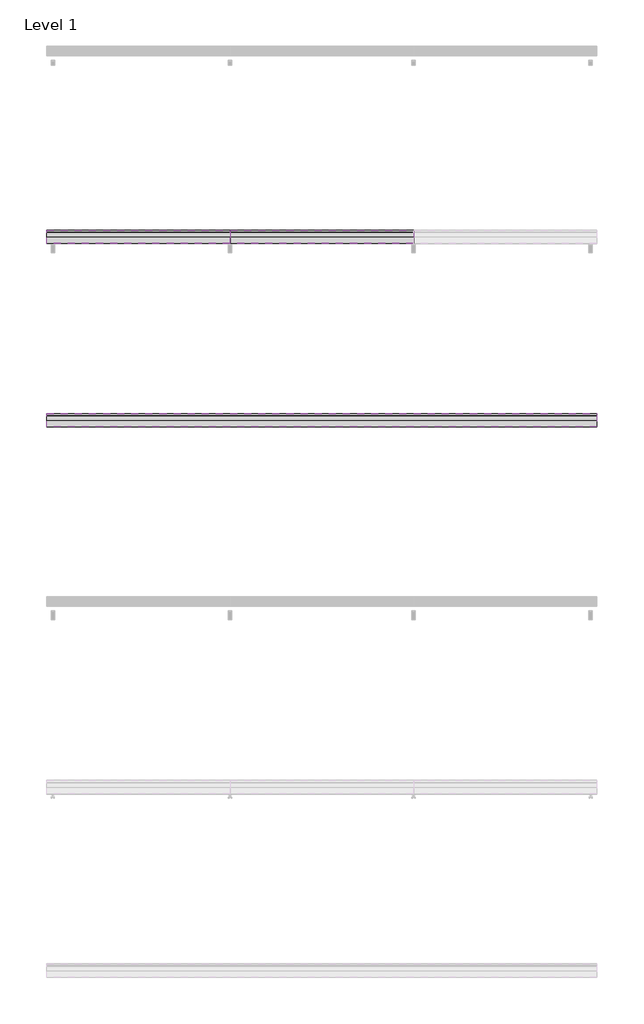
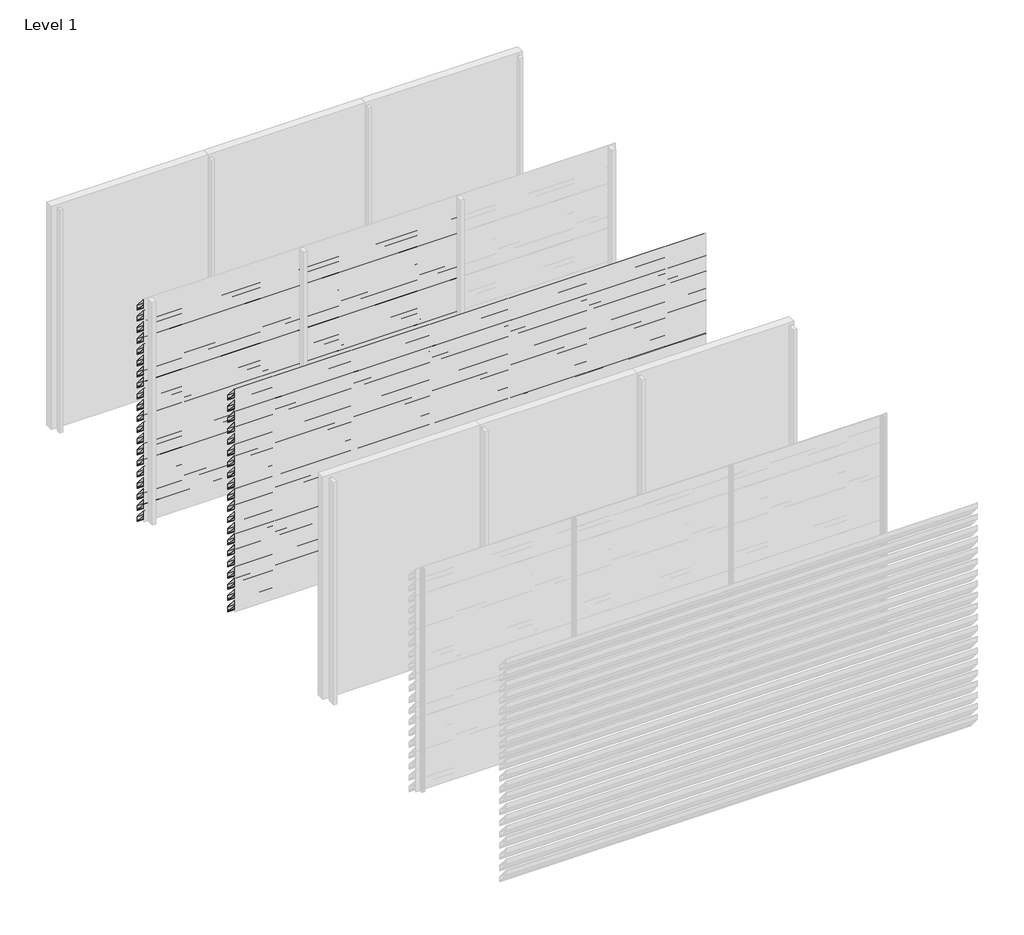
# One storey, part 7 of 16: 56 proxies.
"""IFC4 building model written with IfcOpenShell, lengths in millimetres."""

from ifc_helpers import new_model, si_unit, frame, origin, place, context, project, spatial, polyline, outline, extrude, element, save

model = new_model("IFC4")

# Units and contexts
model_context = context("Model", 3, world=origin())
ifc_project = project(units=[si_unit("LENGTHUNIT", "METRE", prefix="MILLI")], contexts=[model_context])

# Site, building, storey
site = spatial("IfcSite", under=ifc_project)
building = spatial("IfcBuilding", under=site)
storey = spatial("IfcBuildingStorey", under=building, Name="Level 1", Elevation=0.0)

# Proxies
placement = place(None, origin())
element("IfcBuildingElementProxy", 1, Name="Wall Sweeps", at=placement, inside=storey, context=model_context, shape_type="SweptSolid", body=[
    extrude(outline(polyline([(-35851.0, 2830.0), (-35851.0, 2761.0), (-35853.5, 2762.1657691), (-35853.5, 2775.7059843), (-35870.2498671, 2795.6676986), (-35880.9351065, 2795.6676986), (-35998.0, 2935.1802059), (-35998.0, 3000.0), (-35993.6469373, 3000.0), (-35851.0, 2830.0)]), holes=[polyline([(-35996.1, 2998.1), (-35996.1, 2935.8717493), (-35880.049122, 2797.5676986), (-35869.3638825, 2797.5676986), (-35852.9, 2777.9468074), (-35852.9, 2829.3084566), (-35994.5329219, 2998.1), (-35996.1, 2998.1)])]), frame((0.0, 0.0, 0.0), z_axis=(1.0, 0.0, 0.0), x_axis=(0.0, 1.0, 0.0)), (0.0, 0.0, 1.0), 2000.0),
])
element("IfcBuildingElementProxy", 2, Name="Wall Sweeps", at=placement, inside=storey, context=model_context, shape_type="SweptSolid", body=[
    extrude(outline(polyline([(-35851.0, 2680.0), (-35851.0, 2611.0), (-35853.5, 2612.1657691), (-35853.5, 2625.7059843), (-35870.2498671, 2645.6676986), (-35880.9351065, 2645.6676986), (-35998.0, 2785.1802059), (-35998.0, 2850.0), (-35993.6469373, 2850.0), (-35851.0, 2680.0)]), holes=[polyline([(-35996.1, 2848.1), (-35996.1, 2785.8717493), (-35880.049122, 2647.5676986), (-35869.3638825, 2647.5676986), (-35852.9, 2627.9468074), (-35852.9, 2679.3084566), (-35994.5329219, 2848.1), (-35996.1, 2848.1)])]), frame((0.0, 0.0, 0.0), z_axis=(1.0, 0.0, 0.0), x_axis=(0.0, 1.0, 0.0)), (0.0, 0.0, 1.0), 2000.0),
])
element("IfcBuildingElementProxy", 3, Name="Wall Sweeps", at=placement, inside=storey, context=model_context, shape_type="SweptSolid", body=[
    extrude(outline(polyline([(-35851.0, 2530.0), (-35851.0, 2461.0), (-35853.5, 2462.1657691), (-35853.5, 2475.7059843), (-35870.2498671, 2495.6676986), (-35880.9351065, 2495.6676986), (-35998.0, 2635.1802059), (-35998.0, 2700.0), (-35993.6469373, 2700.0), (-35851.0, 2530.0)]), holes=[polyline([(-35996.1, 2698.1), (-35996.1, 2635.8717493), (-35880.049122, 2497.5676986), (-35869.3638825, 2497.5676986), (-35852.9, 2477.9468074), (-35852.9, 2529.3084566), (-35994.5329219, 2698.1), (-35996.1, 2698.1)])]), frame((0.0, 0.0, 0.0), z_axis=(1.0, 0.0, 0.0), x_axis=(0.0, 1.0, 0.0)), (0.0, 0.0, 1.0), 2000.0),
])
element("IfcBuildingElementProxy", 4, Name="Wall Sweeps", at=placement, inside=storey, context=model_context, shape_type="SweptSolid", body=[
    extrude(outline(polyline([(-35851.0, 2380.0), (-35851.0, 2311.0), (-35853.5, 2312.1657691), (-35853.5, 2325.7059843), (-35870.2498671, 2345.6676986), (-35880.9351065, 2345.6676986), (-35998.0, 2485.1802059), (-35998.0, 2550.0), (-35993.6469373, 2550.0), (-35851.0, 2380.0)]), holes=[polyline([(-35996.1, 2548.1), (-35996.1, 2485.8717493), (-35880.049122, 2347.5676986), (-35869.3638825, 2347.5676986), (-35852.9, 2327.9468074), (-35852.9, 2379.3084566), (-35994.5329219, 2548.1), (-35996.1, 2548.1)])]), frame((0.0, 0.0, 0.0), z_axis=(1.0, 0.0, 0.0), x_axis=(0.0, 1.0, 0.0)), (0.0, 0.0, 1.0), 2000.0),
])
element("IfcBuildingElementProxy", 5, Name="Wall Sweeps", at=placement, inside=storey, context=model_context, shape_type="SweptSolid", body=[
    extrude(outline(polyline([(-35851.0, 2230.0), (-35851.0, 2161.0), (-35853.5, 2162.1657691), (-35853.5, 2175.7059843), (-35870.2498671, 2195.6676986), (-35880.9351065, 2195.6676986), (-35998.0, 2335.1802059), (-35998.0, 2400.0), (-35993.6469373, 2400.0), (-35851.0, 2230.0)]), holes=[polyline([(-35996.1, 2398.1), (-35996.1, 2335.8717493), (-35880.049122, 2197.5676986), (-35869.3638825, 2197.5676986), (-35852.9, 2177.9468074), (-35852.9, 2229.3084566), (-35994.5329219, 2398.1), (-35996.1, 2398.1)])]), frame((0.0, 0.0, 0.0), z_axis=(1.0, 0.0, 0.0), x_axis=(0.0, 1.0, 0.0)), (0.0, 0.0, 1.0), 2000.0),
])
element("IfcBuildingElementProxy", 6, Name="Wall Sweeps", at=placement, inside=storey, context=model_context, shape_type="SweptSolid", body=[
    extrude(outline(polyline([(-35851.0, 2080.0), (-35851.0, 2011.0), (-35853.5, 2012.1657691), (-35853.5, 2025.7059843), (-35870.2498671, 2045.6676986), (-35880.9351065, 2045.6676986), (-35998.0, 2185.1802059), (-35998.0, 2250.0), (-35993.6469373, 2250.0), (-35851.0, 2080.0)]), holes=[polyline([(-35996.1, 2248.1), (-35996.1, 2185.8717493), (-35880.049122, 2047.5676986), (-35869.3638825, 2047.5676986), (-35852.9, 2027.9468074), (-35852.9, 2079.3084566), (-35994.5329219, 2248.1), (-35996.1, 2248.1)])]), frame((0.0, 0.0, 0.0), z_axis=(1.0, 0.0, 0.0), x_axis=(0.0, 1.0, 0.0)), (0.0, 0.0, 1.0), 2000.0),
])
element("IfcBuildingElementProxy", 7, Name="Wall Sweeps", at=placement, inside=storey, context=model_context, shape_type="SweptSolid", body=[
    extrude(outline(polyline([(-35851.0, 1930.0), (-35851.0, 1861.0), (-35853.5, 1862.1657691), (-35853.5, 1875.7059843), (-35870.2498671, 1895.6676986), (-35880.9351065, 1895.6676986), (-35998.0, 2035.1802059), (-35998.0, 2100.0), (-35993.6469373, 2100.0), (-35851.0, 1930.0)]), holes=[polyline([(-35996.1, 2098.1), (-35996.1, 2035.8717493), (-35880.049122, 1897.5676986), (-35869.3638825, 1897.5676986), (-35852.9, 1877.9468074), (-35852.9, 1929.3084566), (-35994.5329219, 2098.1), (-35996.1, 2098.1)])]), frame((0.0, 0.0, 0.0), z_axis=(1.0, 0.0, 0.0), x_axis=(0.0, 1.0, 0.0)), (0.0, 0.0, 1.0), 2000.0),
])
element("IfcBuildingElementProxy", 8, Name="Wall Sweeps", at=placement, inside=storey, context=model_context, shape_type="SweptSolid", body=[
    extrude(outline(polyline([(-35851.0, 1780.0), (-35851.0, 1711.0), (-35853.5, 1712.1657691), (-35853.5, 1725.7059843), (-35870.2498671, 1745.6676986), (-35880.9351065, 1745.6676986), (-35998.0, 1885.1802059), (-35998.0, 1950.0), (-35993.6469373, 1950.0), (-35851.0, 1780.0)]), holes=[polyline([(-35996.1, 1948.1), (-35996.1, 1885.8717493), (-35880.049122, 1747.5676986), (-35869.3638825, 1747.5676986), (-35852.9, 1727.9468074), (-35852.9, 1779.3084566), (-35994.5329219, 1948.1), (-35996.1, 1948.1)])]), frame((0.0, 0.0, 0.0), z_axis=(1.0, 0.0, 0.0), x_axis=(0.0, 1.0, 0.0)), (0.0, 0.0, 1.0), 2000.0),
])
element("IfcBuildingElementProxy", 9, Name="Wall Sweeps", at=placement, inside=storey, context=model_context, shape_type="SweptSolid", body=[
    extrude(outline(polyline([(-35851.0, 1630.0), (-35851.0, 1561.0), (-35853.5, 1562.1657691), (-35853.5, 1575.7059843), (-35870.2498671, 1595.6676986), (-35880.9351065, 1595.6676986), (-35998.0, 1735.1802059), (-35998.0, 1800.0), (-35993.6469373, 1800.0), (-35851.0, 1630.0)]), holes=[polyline([(-35996.1, 1798.1), (-35996.1, 1735.8717493), (-35880.049122, 1597.5676986), (-35869.3638825, 1597.5676986), (-35852.9, 1577.9468074), (-35852.9, 1629.3084566), (-35994.5329219, 1798.1), (-35996.1, 1798.1)])]), frame((0.0, 0.0, 0.0), z_axis=(1.0, 0.0, 0.0), x_axis=(0.0, 1.0, 0.0)), (0.0, 0.0, 1.0), 2000.0),
])
element("IfcBuildingElementProxy", 10, Name="Wall Sweeps", at=placement, inside=storey, context=model_context, shape_type="SweptSolid", body=[
    extrude(outline(polyline([(-35851.0, 1480.0), (-35851.0, 1411.0), (-35853.5, 1412.1657691), (-35853.5, 1425.7059843), (-35870.2498671, 1445.6676986), (-35880.9351065, 1445.6676986), (-35998.0, 1585.1802059), (-35998.0, 1650.0), (-35993.6469373, 1650.0), (-35851.0, 1480.0)]), holes=[polyline([(-35996.1, 1648.1), (-35996.1, 1585.8717493), (-35880.049122, 1447.5676986), (-35869.3638825, 1447.5676986), (-35852.9, 1427.9468074), (-35852.9, 1479.3084566), (-35994.5329219, 1648.1), (-35996.1, 1648.1)])]), frame((0.0, 0.0, 0.0), z_axis=(1.0, 0.0, 0.0), x_axis=(0.0, 1.0, 0.0)), (0.0, 0.0, 1.0), 2000.0),
])
element("IfcBuildingElementProxy", 11, Name="Wall Sweeps", at=placement, inside=storey, context=model_context, shape_type="SweptSolid", body=[
    extrude(outline(polyline([(-35851.0, 1330.0), (-35851.0, 1261.0), (-35853.5, 1262.1657691), (-35853.5, 1275.7059843), (-35870.2498671, 1295.6676986), (-35880.9351065, 1295.6676986), (-35998.0, 1435.1802059), (-35998.0, 1500.0), (-35993.6469373, 1500.0), (-35851.0, 1330.0)]), holes=[polyline([(-35996.1, 1498.1), (-35996.1, 1435.8717493), (-35880.049122, 1297.5676986), (-35869.3638825, 1297.5676986), (-35852.9, 1277.9468074), (-35852.9, 1329.3084566), (-35994.5329219, 1498.1), (-35996.1, 1498.1)])]), frame((0.0, 0.0, 0.0), z_axis=(1.0, 0.0, 0.0), x_axis=(0.0, 1.0, 0.0)), (0.0, 0.0, 1.0), 2000.0),
])
element("IfcBuildingElementProxy", 12, Name="Wall Sweeps", at=placement, inside=storey, context=model_context, shape_type="SweptSolid", body=[
    extrude(outline(polyline([(-35851.0, 1180.0), (-35851.0, 1111.0), (-35853.5, 1112.1657691), (-35853.5, 1125.7059843), (-35870.2498671, 1145.6676986), (-35880.9351065, 1145.6676986), (-35998.0, 1285.1802059), (-35998.0, 1350.0), (-35993.6469373, 1350.0), (-35851.0, 1180.0)]), holes=[polyline([(-35996.1, 1348.1), (-35996.1, 1285.8717493), (-35880.049122, 1147.5676986), (-35869.3638825, 1147.5676986), (-35852.9, 1127.9468074), (-35852.9, 1179.3084566), (-35994.5329219, 1348.1), (-35996.1, 1348.1)])]), frame((0.0, 0.0, 0.0), z_axis=(1.0, 0.0, 0.0), x_axis=(0.0, 1.0, 0.0)), (0.0, 0.0, 1.0), 2000.0),
])
element("IfcBuildingElementProxy", 13, Name="Wall Sweeps", at=placement, inside=storey, context=model_context, shape_type="SweptSolid", body=[
    extrude(outline(polyline([(-35851.0, 1030.0), (-35851.0, 961.0), (-35853.5, 962.1657691), (-35853.5, 975.7059843), (-35870.2498671, 995.6676986), (-35880.9351065, 995.6676986), (-35998.0, 1135.1802059), (-35998.0, 1200.0), (-35993.6469373, 1200.0), (-35851.0, 1030.0)]), holes=[polyline([(-35996.1, 1198.1), (-35996.1, 1135.8717493), (-35880.049122, 997.5676986), (-35869.3638825, 997.5676986), (-35852.9, 977.9468074), (-35852.9, 1029.3084566), (-35994.5329219, 1198.1), (-35996.1, 1198.1)])]), frame((0.0, 0.0, 0.0), z_axis=(1.0, 0.0, 0.0), x_axis=(0.0, 1.0, 0.0)), (0.0, 0.0, 1.0), 2000.0),
])
element("IfcBuildingElementProxy", 14, Name="Wall Sweeps", at=placement, inside=storey, context=model_context, shape_type="SweptSolid", body=[
    extrude(outline(polyline([(-35851.0, 880.0), (-35851.0, 811.0), (-35853.5, 812.1657691), (-35853.5, 825.7059843), (-35870.2498671, 845.6676986), (-35880.9351065, 845.6676986), (-35998.0, 985.1802059), (-35998.0, 1050.0), (-35993.6469373, 1050.0), (-35851.0, 880.0)]), holes=[polyline([(-35996.1, 1048.1), (-35996.1, 985.8717493), (-35880.049122, 847.5676986), (-35869.3638825, 847.5676986), (-35852.9, 827.9468074), (-35852.9, 879.3084566), (-35994.5329219, 1048.1), (-35996.1, 1048.1)])]), frame((0.0, 0.0, 0.0), z_axis=(1.0, 0.0, 0.0), x_axis=(0.0, 1.0, 0.0)), (0.0, 0.0, 1.0), 2000.0),
])
element("IfcBuildingElementProxy", 15, Name="Wall Sweeps", at=placement, inside=storey, context=model_context, shape_type="SweptSolid", body=[
    extrude(outline(polyline([(-35851.0, 730.0), (-35851.0, 661.0), (-35853.5, 662.1657691), (-35853.5, 675.7059843), (-35870.2498671, 695.6676986), (-35880.9351065, 695.6676986), (-35998.0, 835.1802059), (-35998.0, 900.0), (-35993.6469373, 900.0), (-35851.0, 730.0)]), holes=[polyline([(-35996.1, 898.1), (-35996.1, 835.8717493), (-35880.049122, 697.5676986), (-35869.3638825, 697.5676986), (-35852.9, 677.9468074), (-35852.9, 729.3084566), (-35994.5329219, 898.1), (-35996.1, 898.1)])]), frame((0.0, 0.0, 0.0), z_axis=(1.0, 0.0, 0.0), x_axis=(0.0, 1.0, 0.0)), (0.0, 0.0, 1.0), 2000.0),
])
element("IfcBuildingElementProxy", 16, Name="Wall Sweeps", at=placement, inside=storey, context=model_context, shape_type="SweptSolid", body=[
    extrude(outline(polyline([(-35851.0, 580.0), (-35851.0, 511.0), (-35853.5, 512.1657691), (-35853.5, 525.7059843), (-35870.2498671, 545.6676986), (-35880.9351065, 545.6676986), (-35998.0, 685.1802059), (-35998.0, 750.0), (-35993.6469373, 750.0), (-35851.0, 580.0)]), holes=[polyline([(-35996.1, 748.1), (-35996.1, 685.8717493), (-35880.049122, 547.5676986), (-35869.3638825, 547.5676986), (-35852.9, 527.9468074), (-35852.9, 579.3084566), (-35994.5329219, 748.1), (-35996.1, 748.1)])]), frame((0.0, 0.0, 0.0), z_axis=(1.0, 0.0, 0.0), x_axis=(0.0, 1.0, 0.0)), (0.0, 0.0, 1.0), 2000.0),
])
element("IfcBuildingElementProxy", 17, Name="Wall Sweeps", at=placement, inside=storey, context=model_context, shape_type="SweptSolid", body=[
    extrude(outline(polyline([(-35851.0, 430.0), (-35851.0, 361.0), (-35853.5, 362.1657691), (-35853.5, 375.7059843), (-35870.2498671, 395.6676986), (-35880.9351065, 395.6676986), (-35998.0, 535.1802059), (-35998.0, 600.0), (-35993.6469373, 600.0), (-35851.0, 430.0)]), holes=[polyline([(-35996.1, 598.1), (-35996.1, 535.8717493), (-35880.049122, 397.5676986), (-35869.3638825, 397.5676986), (-35852.9, 377.9468074), (-35852.9, 429.3084566), (-35994.5329219, 598.1), (-35996.1, 598.1)])]), frame((0.0, 0.0, 0.0), z_axis=(1.0, 0.0, 0.0), x_axis=(0.0, 1.0, 0.0)), (0.0, 0.0, 1.0), 2000.0),
])
element("IfcBuildingElementProxy", 18, Name="Wall Sweeps", at=placement, inside=storey, context=model_context, shape_type="SweptSolid", body=[
    extrude(outline(polyline([(-35851.0, 280.0), (-35851.0, 211.0), (-35853.5, 212.1657691), (-35853.5, 225.7059843), (-35870.2498671, 245.6676986), (-35880.9351065, 245.6676986), (-35998.0, 385.1802059), (-35998.0, 450.0), (-35993.6469373, 450.0), (-35851.0, 280.0)]), holes=[polyline([(-35996.1, 448.1), (-35996.1, 385.8717493), (-35880.049122, 247.5676986), (-35869.3638825, 247.5676986), (-35852.9, 227.9468074), (-35852.9, 279.3084566), (-35994.5329219, 448.1), (-35996.1, 448.1)])]), frame((0.0, 0.0, 0.0), z_axis=(1.0, 0.0, 0.0), x_axis=(0.0, 1.0, 0.0)), (0.0, 0.0, 1.0), 2000.0),
])
element("IfcBuildingElementProxy", 19, Name="Wall Sweeps", at=placement, inside=storey, context=model_context, shape_type="SweptSolid", body=[
    extrude(outline(polyline([(-35851.0, 130.0), (-35851.0, 61.0), (-35853.5, 62.1657691), (-35853.5, 75.7059843), (-35870.2498671, 95.6676986), (-35880.9351065, 95.6676986), (-35998.0, 235.1802059), (-35998.0, 300.0), (-35993.6469373, 300.0), (-35851.0, 130.0)]), holes=[polyline([(-35996.1, 298.1), (-35996.1, 235.8717493), (-35880.049122, 97.5676986), (-35869.3638825, 97.5676986), (-35852.9, 77.9468074), (-35852.9, 129.3084566), (-35994.5329219, 298.1), (-35996.1, 298.1)])]), frame((0.0, 0.0, 0.0), z_axis=(1.0, 0.0, 0.0), x_axis=(0.0, 1.0, 0.0)), (0.0, 0.0, 1.0), 2000.0),
])
element("IfcBuildingElementProxy", 20, Name="Wall Sweeps", at=placement, inside=storey, context=model_context, shape_type="SweptSolid", body=[
    extrude(outline(polyline([(-35851.0, -20.0), (-35851.0, -89.0), (-35853.5, -87.8342309), (-35853.5, -74.2940157), (-35870.2498671, -54.3323014), (-35880.9351065, -54.3323014), (-35998.0, 85.1802059), (-35998.0, 150.0), (-35993.6469373, 150.0), (-35851.0, -20.0)]), holes=[polyline([(-35996.1, 148.1), (-35996.1, 85.8717493), (-35880.049122, -52.4323014), (-35869.3638825, -52.4323014), (-35852.9, -72.0531926), (-35852.9, -20.6915434), (-35994.5329219, 148.1), (-35996.1, 148.1)])]), frame((0.0, 0.0, 0.0), z_axis=(1.0, 0.0, 0.0), x_axis=(0.0, 1.0, 0.0)), (0.0, 0.0, 1.0), 2000.0),
])
element("IfcBuildingElementProxy", 21, Name="Wall Sweeps", at=placement, inside=storey, context=model_context, shape_type="SweptSolid", body=[
    extrude(outline(polyline([(-35851.0, 2830.0), (-35851.0, 2761.0), (-35853.5, 2762.1657691), (-35853.5, 2775.7059843), (-35870.2498671, 2795.6676986), (-35880.9351065, 2795.6676986), (-35998.0, 2935.1802059), (-35998.0, 3000.0), (-35993.6469373, 3000.0), (-35851.0, 2830.0)]), holes=[polyline([(-35996.1, 2998.1), (-35996.1, 2935.8717493), (-35880.049122, 2797.5676986), (-35869.3638825, 2797.5676986), (-35852.9, 2777.9468074), (-35852.9, 2829.3084566), (-35994.5329219, 2998.1), (-35996.1, 2998.1)])]), frame((2000.0, 0.0, 0.0), z_axis=(1.0, 0.0, 0.0), x_axis=(0.0, 1.0, 0.0)), (0.0, 0.0, 1.0), 2000.0),
])
element("IfcBuildingElementProxy", 22, Name="Wall Sweeps", at=placement, inside=storey, context=model_context, shape_type="SweptSolid", body=[
    extrude(outline(polyline([(-35851.0, 2680.0), (-35851.0, 2611.0), (-35853.5, 2612.1657691), (-35853.5, 2625.7059843), (-35870.2498671, 2645.6676986), (-35880.9351065, 2645.6676986), (-35998.0, 2785.1802059), (-35998.0, 2850.0), (-35993.6469373, 2850.0), (-35851.0, 2680.0)]), holes=[polyline([(-35996.1, 2848.1), (-35996.1, 2785.8717493), (-35880.049122, 2647.5676986), (-35869.3638825, 2647.5676986), (-35852.9, 2627.9468074), (-35852.9, 2679.3084566), (-35994.5329219, 2848.1), (-35996.1, 2848.1)])]), frame((2000.0, 0.0, 0.0), z_axis=(1.0, 0.0, 0.0), x_axis=(0.0, 1.0, 0.0)), (0.0, 0.0, 1.0), 2000.0),
])
element("IfcBuildingElementProxy", 23, Name="Wall Sweeps", at=placement, inside=storey, context=model_context, shape_type="SweptSolid", body=[
    extrude(outline(polyline([(-35851.0, 2530.0), (-35851.0, 2461.0), (-35853.5, 2462.1657691), (-35853.5, 2475.7059843), (-35870.2498671, 2495.6676986), (-35880.9351065, 2495.6676986), (-35998.0, 2635.1802059), (-35998.0, 2700.0), (-35993.6469373, 2700.0), (-35851.0, 2530.0)]), holes=[polyline([(-35996.1, 2698.1), (-35996.1, 2635.8717493), (-35880.049122, 2497.5676986), (-35869.3638825, 2497.5676986), (-35852.9, 2477.9468074), (-35852.9, 2529.3084566), (-35994.5329219, 2698.1), (-35996.1, 2698.1)])]), frame((2000.0, 0.0, 0.0), z_axis=(1.0, 0.0, 0.0), x_axis=(0.0, 1.0, 0.0)), (0.0, 0.0, 1.0), 2000.0),
])
element("IfcBuildingElementProxy", 24, Name="Wall Sweeps", at=placement, inside=storey, context=model_context, shape_type="SweptSolid", body=[
    extrude(outline(polyline([(-35851.0, 2380.0), (-35851.0, 2311.0), (-35853.5, 2312.1657691), (-35853.5, 2325.7059843), (-35870.2498671, 2345.6676986), (-35880.9351065, 2345.6676986), (-35998.0, 2485.1802059), (-35998.0, 2550.0), (-35993.6469373, 2550.0), (-35851.0, 2380.0)]), holes=[polyline([(-35996.1, 2548.1), (-35996.1, 2485.8717493), (-35880.049122, 2347.5676986), (-35869.3638825, 2347.5676986), (-35852.9, 2327.9468074), (-35852.9, 2379.3084566), (-35994.5329219, 2548.1), (-35996.1, 2548.1)])]), frame((2000.0, 0.0, 0.0), z_axis=(1.0, 0.0, 0.0), x_axis=(0.0, 1.0, 0.0)), (0.0, 0.0, 1.0), 2000.0),
])
element("IfcBuildingElementProxy", 25, Name="Wall Sweeps", at=placement, inside=storey, context=model_context, shape_type="SweptSolid", body=[
    extrude(outline(polyline([(-35851.0, 2230.0), (-35851.0, 2161.0), (-35853.5, 2162.1657691), (-35853.5, 2175.7059843), (-35870.2498671, 2195.6676986), (-35880.9351065, 2195.6676986), (-35998.0, 2335.1802059), (-35998.0, 2400.0), (-35993.6469373, 2400.0), (-35851.0, 2230.0)]), holes=[polyline([(-35996.1, 2398.1), (-35996.1, 2335.8717493), (-35880.049122, 2197.5676986), (-35869.3638825, 2197.5676986), (-35852.9, 2177.9468074), (-35852.9, 2229.3084566), (-35994.5329219, 2398.1), (-35996.1, 2398.1)])]), frame((2000.0, 0.0, 0.0), z_axis=(1.0, 0.0, 0.0), x_axis=(0.0, 1.0, 0.0)), (0.0, 0.0, 1.0), 2000.0),
])
element("IfcBuildingElementProxy", 26, Name="Wall Sweeps", at=placement, inside=storey, context=model_context, shape_type="SweptSolid", body=[
    extrude(outline(polyline([(-35851.0, 2080.0), (-35851.0, 2011.0), (-35853.5, 2012.1657691), (-35853.5, 2025.7059843), (-35870.2498671, 2045.6676986), (-35880.9351065, 2045.6676986), (-35998.0, 2185.1802059), (-35998.0, 2250.0), (-35993.6469373, 2250.0), (-35851.0, 2080.0)]), holes=[polyline([(-35996.1, 2248.1), (-35996.1, 2185.8717493), (-35880.049122, 2047.5676986), (-35869.3638825, 2047.5676986), (-35852.9, 2027.9468074), (-35852.9, 2079.3084566), (-35994.5329219, 2248.1), (-35996.1, 2248.1)])]), frame((2000.0, 0.0, 0.0), z_axis=(1.0, 0.0, 0.0), x_axis=(0.0, 1.0, 0.0)), (0.0, 0.0, 1.0), 2000.0),
])
element("IfcBuildingElementProxy", 27, Name="Wall Sweeps", at=placement, inside=storey, context=model_context, shape_type="SweptSolid", body=[
    extrude(outline(polyline([(-35851.0, 1930.0), (-35851.0, 1861.0), (-35853.5, 1862.1657691), (-35853.5, 1875.7059843), (-35870.2498671, 1895.6676986), (-35880.9351065, 1895.6676986), (-35998.0, 2035.1802059), (-35998.0, 2100.0), (-35993.6469373, 2100.0), (-35851.0, 1930.0)]), holes=[polyline([(-35996.1, 2098.1), (-35996.1, 2035.8717493), (-35880.049122, 1897.5676986), (-35869.3638825, 1897.5676986), (-35852.9, 1877.9468074), (-35852.9, 1929.3084566), (-35994.5329219, 2098.1), (-35996.1, 2098.1)])]), frame((2000.0, 0.0, 0.0), z_axis=(1.0, 0.0, 0.0), x_axis=(0.0, 1.0, 0.0)), (0.0, 0.0, 1.0), 2000.0),
])
element("IfcBuildingElementProxy", 28, Name="Wall Sweeps", at=placement, inside=storey, context=model_context, shape_type="SweptSolid", body=[
    extrude(outline(polyline([(-35851.0, 1780.0), (-35851.0, 1711.0), (-35853.5, 1712.1657691), (-35853.5, 1725.7059843), (-35870.2498671, 1745.6676986), (-35880.9351065, 1745.6676986), (-35998.0, 1885.1802059), (-35998.0, 1950.0), (-35993.6469373, 1950.0), (-35851.0, 1780.0)]), holes=[polyline([(-35996.1, 1948.1), (-35996.1, 1885.8717493), (-35880.049122, 1747.5676986), (-35869.3638825, 1747.5676986), (-35852.9, 1727.9468074), (-35852.9, 1779.3084566), (-35994.5329219, 1948.1), (-35996.1, 1948.1)])]), frame((2000.0, 0.0, 0.0), z_axis=(1.0, 0.0, 0.0), x_axis=(0.0, 1.0, 0.0)), (0.0, 0.0, 1.0), 2000.0),
])
element("IfcBuildingElementProxy", 29, Name="Wall Sweeps", at=placement, inside=storey, context=model_context, shape_type="SweptSolid", body=[
    extrude(outline(polyline([(-35851.0, 1630.0), (-35851.0, 1561.0), (-35853.5, 1562.1657691), (-35853.5, 1575.7059843), (-35870.2498671, 1595.6676986), (-35880.9351065, 1595.6676986), (-35998.0, 1735.1802059), (-35998.0, 1800.0), (-35993.6469373, 1800.0), (-35851.0, 1630.0)]), holes=[polyline([(-35996.1, 1798.1), (-35996.1, 1735.8717493), (-35880.049122, 1597.5676986), (-35869.3638825, 1597.5676986), (-35852.9, 1577.9468074), (-35852.9, 1629.3084566), (-35994.5329219, 1798.1), (-35996.1, 1798.1)])]), frame((2000.0, 0.0, 0.0), z_axis=(1.0, 0.0, 0.0), x_axis=(0.0, 1.0, 0.0)), (0.0, 0.0, 1.0), 2000.0),
])
element("IfcBuildingElementProxy", 30, Name="Wall Sweeps", at=placement, inside=storey, context=model_context, shape_type="SweptSolid", body=[
    extrude(outline(polyline([(-35851.0, 1480.0), (-35851.0, 1411.0), (-35853.5, 1412.1657691), (-35853.5, 1425.7059843), (-35870.2498671, 1445.6676986), (-35880.9351065, 1445.6676986), (-35998.0, 1585.1802059), (-35998.0, 1650.0), (-35993.6469373, 1650.0), (-35851.0, 1480.0)]), holes=[polyline([(-35996.1, 1648.1), (-35996.1, 1585.8717493), (-35880.049122, 1447.5676986), (-35869.3638825, 1447.5676986), (-35852.9, 1427.9468074), (-35852.9, 1479.3084566), (-35994.5329219, 1648.1), (-35996.1, 1648.1)])]), frame((2000.0, 0.0, 0.0), z_axis=(1.0, 0.0, 0.0), x_axis=(0.0, 1.0, 0.0)), (0.0, 0.0, 1.0), 2000.0),
])
element("IfcBuildingElementProxy", 31, Name="Wall Sweeps", at=placement, inside=storey, context=model_context, shape_type="SweptSolid", body=[
    extrude(outline(polyline([(-35851.0, 1330.0), (-35851.0, 1261.0), (-35853.5, 1262.1657691), (-35853.5, 1275.7059843), (-35870.2498671, 1295.6676986), (-35880.9351065, 1295.6676986), (-35998.0, 1435.1802059), (-35998.0, 1500.0), (-35993.6469373, 1500.0), (-35851.0, 1330.0)]), holes=[polyline([(-35996.1, 1498.1), (-35996.1, 1435.8717493), (-35880.049122, 1297.5676986), (-35869.3638825, 1297.5676986), (-35852.9, 1277.9468074), (-35852.9, 1329.3084566), (-35994.5329219, 1498.1), (-35996.1, 1498.1)])]), frame((2000.0, 0.0, 0.0), z_axis=(1.0, 0.0, 0.0), x_axis=(0.0, 1.0, 0.0)), (0.0, 0.0, 1.0), 2000.0),
])
element("IfcBuildingElementProxy", 32, Name="Wall Sweeps", at=placement, inside=storey, context=model_context, shape_type="SweptSolid", body=[
    extrude(outline(polyline([(-35851.0, 1180.0), (-35851.0, 1111.0), (-35853.5, 1112.1657691), (-35853.5, 1125.7059843), (-35870.2498671, 1145.6676986), (-35880.9351065, 1145.6676986), (-35998.0, 1285.1802059), (-35998.0, 1350.0), (-35993.6469373, 1350.0), (-35851.0, 1180.0)]), holes=[polyline([(-35996.1, 1348.1), (-35996.1, 1285.8717493), (-35880.049122, 1147.5676986), (-35869.3638825, 1147.5676986), (-35852.9, 1127.9468074), (-35852.9, 1179.3084566), (-35994.5329219, 1348.1), (-35996.1, 1348.1)])]), frame((2000.0, 0.0, 0.0), z_axis=(1.0, 0.0, 0.0), x_axis=(0.0, 1.0, 0.0)), (0.0, 0.0, 1.0), 2000.0),
])
element("IfcBuildingElementProxy", 33, Name="Wall Sweeps", at=placement, inside=storey, context=model_context, shape_type="SweptSolid", body=[
    extrude(outline(polyline([(-35851.0, 1030.0), (-35851.0, 961.0), (-35853.5, 962.1657691), (-35853.5, 975.7059843), (-35870.2498671, 995.6676986), (-35880.9351065, 995.6676986), (-35998.0, 1135.1802059), (-35998.0, 1200.0), (-35993.6469373, 1200.0), (-35851.0, 1030.0)]), holes=[polyline([(-35996.1, 1198.1), (-35996.1, 1135.8717493), (-35880.049122, 997.5676986), (-35869.3638825, 997.5676986), (-35852.9, 977.9468074), (-35852.9, 1029.3084566), (-35994.5329219, 1198.1), (-35996.1, 1198.1)])]), frame((2000.0, 0.0, 0.0), z_axis=(1.0, 0.0, 0.0), x_axis=(0.0, 1.0, 0.0)), (0.0, 0.0, 1.0), 2000.0),
])
element("IfcBuildingElementProxy", 34, Name="Wall Sweeps", at=placement, inside=storey, context=model_context, shape_type="SweptSolid", body=[
    extrude(outline(polyline([(-35851.0, 880.0), (-35851.0, 811.0), (-35853.5, 812.1657691), (-35853.5, 825.7059843), (-35870.2498671, 845.6676986), (-35880.9351065, 845.6676986), (-35998.0, 985.1802059), (-35998.0, 1050.0), (-35993.6469373, 1050.0), (-35851.0, 880.0)]), holes=[polyline([(-35996.1, 1048.1), (-35996.1, 985.8717493), (-35880.049122, 847.5676986), (-35869.3638825, 847.5676986), (-35852.9, 827.9468074), (-35852.9, 879.3084566), (-35994.5329219, 1048.1), (-35996.1, 1048.1)])]), frame((2000.0, 0.0, 0.0), z_axis=(1.0, 0.0, 0.0), x_axis=(0.0, 1.0, 0.0)), (0.0, 0.0, 1.0), 2000.0),
])
element("IfcBuildingElementProxy", 35, Name="Wall Sweeps", at=placement, inside=storey, context=model_context, shape_type="SweptSolid", body=[
    extrude(outline(polyline([(-35851.0, 730.0), (-35851.0, 661.0), (-35853.5, 662.1657691), (-35853.5, 675.7059843), (-35870.2498671, 695.6676986), (-35880.9351065, 695.6676986), (-35998.0, 835.1802059), (-35998.0, 900.0), (-35993.6469373, 900.0), (-35851.0, 730.0)]), holes=[polyline([(-35996.1, 898.1), (-35996.1, 835.8717493), (-35880.049122, 697.5676986), (-35869.3638825, 697.5676986), (-35852.9, 677.9468074), (-35852.9, 729.3084566), (-35994.5329219, 898.1), (-35996.1, 898.1)])]), frame((2000.0, 0.0, 0.0), z_axis=(1.0, 0.0, 0.0), x_axis=(0.0, 1.0, 0.0)), (0.0, 0.0, 1.0), 2000.0),
])
element("IfcBuildingElementProxy", 36, Name="Wall Sweeps", at=placement, inside=storey, context=model_context, shape_type="SweptSolid", body=[
    extrude(outline(polyline([(-37851.0, 2830.0), (-37851.0, 2761.0), (-37853.5, 2762.1657691), (-37853.5, 2775.7059843), (-37870.2498671, 2795.6676986), (-37880.9351065, 2795.6676986), (-37998.0, 2935.1802059), (-37998.0, 3000.0), (-37993.6469373, 3000.0), (-37851.0, 2830.0)]), holes=[polyline([(-37996.1, 2998.1), (-37996.1, 2935.8717493), (-37880.049122, 2797.5676986), (-37869.3638825, 2797.5676986), (-37852.9, 2777.9468074), (-37852.9, 2829.3084566), (-37994.5329219, 2998.1), (-37996.1, 2998.1)])]), frame((0.0, 0.0, 0.0), z_axis=(1.0, 0.0, 0.0), x_axis=(0.0, 1.0, 0.0)), (0.0, 0.0, 1.0), 6000.0),
])
element("IfcBuildingElementProxy", 37, Name="Wall Sweeps", at=placement, inside=storey, context=model_context, shape_type="SweptSolid", body=[
    extrude(outline(polyline([(-37851.0, 2680.0), (-37851.0, 2611.0), (-37853.5, 2612.1657691), (-37853.5, 2625.7059843), (-37870.2498671, 2645.6676986), (-37880.9351065, 2645.6676986), (-37998.0, 2785.1802059), (-37998.0, 2850.0), (-37993.6469373, 2850.0), (-37851.0, 2680.0)]), holes=[polyline([(-37996.1, 2848.1), (-37996.1, 2785.8717493), (-37880.049122, 2647.5676986), (-37869.3638825, 2647.5676986), (-37852.9, 2627.9468074), (-37852.9, 2679.3084566), (-37994.5329219, 2848.1), (-37996.1, 2848.1)])]), frame((0.0, 0.0, 0.0), z_axis=(1.0, 0.0, 0.0), x_axis=(0.0, 1.0, 0.0)), (0.0, 0.0, 1.0), 6000.0),
])
element("IfcBuildingElementProxy", 38, Name="Wall Sweeps", at=placement, inside=storey, context=model_context, shape_type="SweptSolid", body=[
    extrude(outline(polyline([(-37851.0, 2530.0), (-37851.0, 2461.0), (-37853.5, 2462.1657691), (-37853.5, 2475.7059843), (-37870.2498671, 2495.6676986), (-37880.9351065, 2495.6676986), (-37998.0, 2635.1802059), (-37998.0, 2700.0), (-37993.6469373, 2700.0), (-37851.0, 2530.0)]), holes=[polyline([(-37996.1, 2698.1), (-37996.1, 2635.8717493), (-37880.049122, 2497.5676986), (-37869.3638825, 2497.5676986), (-37852.9, 2477.9468074), (-37852.9, 2529.3084566), (-37994.5329219, 2698.1), (-37996.1, 2698.1)])]), frame((0.0, 0.0, 0.0), z_axis=(1.0, 0.0, 0.0), x_axis=(0.0, 1.0, 0.0)), (0.0, 0.0, 1.0), 6000.0),
])
element("IfcBuildingElementProxy", 39, Name="Wall Sweeps", at=placement, inside=storey, context=model_context, shape_type="SweptSolid", body=[
    extrude(outline(polyline([(-37851.0, 2380.0), (-37851.0, 2311.0), (-37853.5, 2312.1657691), (-37853.5, 2325.7059843), (-37870.2498671, 2345.6676986), (-37880.9351065, 2345.6676986), (-37998.0, 2485.1802059), (-37998.0, 2550.0), (-37993.6469373, 2550.0), (-37851.0, 2380.0)]), holes=[polyline([(-37996.1, 2548.1), (-37996.1, 2485.8717493), (-37880.049122, 2347.5676986), (-37869.3638825, 2347.5676986), (-37852.9, 2327.9468074), (-37852.9, 2379.3084566), (-37994.5329219, 2548.1), (-37996.1, 2548.1)])]), frame((0.0, 0.0, 0.0), z_axis=(1.0, 0.0, 0.0), x_axis=(0.0, 1.0, 0.0)), (0.0, 0.0, 1.0), 6000.0),
])
element("IfcBuildingElementProxy", 40, Name="Wall Sweeps", at=placement, inside=storey, context=model_context, shape_type="SweptSolid", body=[
    extrude(outline(polyline([(-37851.0, 2230.0), (-37851.0, 2161.0), (-37853.5, 2162.1657691), (-37853.5, 2175.7059843), (-37870.2498671, 2195.6676986), (-37880.9351065, 2195.6676986), (-37998.0, 2335.1802059), (-37998.0, 2400.0), (-37993.6469373, 2400.0), (-37851.0, 2230.0)]), holes=[polyline([(-37996.1, 2398.1), (-37996.1, 2335.8717493), (-37880.049122, 2197.5676986), (-37869.3638825, 2197.5676986), (-37852.9, 2177.9468074), (-37852.9, 2229.3084566), (-37994.5329219, 2398.1), (-37996.1, 2398.1)])]), frame((0.0, 0.0, 0.0), z_axis=(1.0, 0.0, 0.0), x_axis=(0.0, 1.0, 0.0)), (0.0, 0.0, 1.0), 6000.0),
])
element("IfcBuildingElementProxy", 41, Name="Wall Sweeps", at=placement, inside=storey, context=model_context, shape_type="SweptSolid", body=[
    extrude(outline(polyline([(-37851.0, 2080.0), (-37851.0, 2011.0), (-37853.5, 2012.1657691), (-37853.5, 2025.7059843), (-37870.2498671, 2045.6676986), (-37880.9351065, 2045.6676986), (-37998.0, 2185.1802059), (-37998.0, 2250.0), (-37993.6469373, 2250.0), (-37851.0, 2080.0)]), holes=[polyline([(-37996.1, 2248.1), (-37996.1, 2185.8717493), (-37880.049122, 2047.5676986), (-37869.3638825, 2047.5676986), (-37852.9, 2027.9468074), (-37852.9, 2079.3084566), (-37994.5329219, 2248.1), (-37996.1, 2248.1)])]), frame((0.0, 0.0, 0.0), z_axis=(1.0, 0.0, 0.0), x_axis=(0.0, 1.0, 0.0)), (0.0, 0.0, 1.0), 6000.0),
])
element("IfcBuildingElementProxy", 42, Name="Wall Sweeps", at=placement, inside=storey, context=model_context, shape_type="SweptSolid", body=[
    extrude(outline(polyline([(-37851.0, 1930.0), (-37851.0, 1861.0), (-37853.5, 1862.1657691), (-37853.5, 1875.7059843), (-37870.2498671, 1895.6676986), (-37880.9351065, 1895.6676986), (-37998.0, 2035.1802059), (-37998.0, 2100.0), (-37993.6469373, 2100.0), (-37851.0, 1930.0)]), holes=[polyline([(-37996.1, 2098.1), (-37996.1, 2035.8717493), (-37880.049122, 1897.5676986), (-37869.3638825, 1897.5676986), (-37852.9, 1877.9468074), (-37852.9, 1929.3084566), (-37994.5329219, 2098.1), (-37996.1, 2098.1)])]), frame((0.0, 0.0, 0.0), z_axis=(1.0, 0.0, 0.0), x_axis=(0.0, 1.0, 0.0)), (0.0, 0.0, 1.0), 6000.0),
])
element("IfcBuildingElementProxy", 43, Name="Wall Sweeps", at=placement, inside=storey, context=model_context, shape_type="SweptSolid", body=[
    extrude(outline(polyline([(-37851.0, 1780.0), (-37851.0, 1711.0), (-37853.5, 1712.1657691), (-37853.5, 1725.7059843), (-37870.2498671, 1745.6676986), (-37880.9351065, 1745.6676986), (-37998.0, 1885.1802059), (-37998.0, 1950.0), (-37993.6469373, 1950.0), (-37851.0, 1780.0)]), holes=[polyline([(-37996.1, 1948.1), (-37996.1, 1885.8717493), (-37880.049122, 1747.5676986), (-37869.3638825, 1747.5676986), (-37852.9, 1727.9468074), (-37852.9, 1779.3084566), (-37994.5329219, 1948.1), (-37996.1, 1948.1)])]), frame((0.0, 0.0, 0.0), z_axis=(1.0, 0.0, 0.0), x_axis=(0.0, 1.0, 0.0)), (0.0, 0.0, 1.0), 6000.0),
])
element("IfcBuildingElementProxy", 44, Name="Wall Sweeps", at=placement, inside=storey, context=model_context, shape_type="SweptSolid", body=[
    extrude(outline(polyline([(-37851.0, 1630.0), (-37851.0, 1561.0), (-37853.5, 1562.1657691), (-37853.5, 1575.7059843), (-37870.2498671, 1595.6676986), (-37880.9351065, 1595.6676986), (-37998.0, 1735.1802059), (-37998.0, 1800.0), (-37993.6469373, 1800.0), (-37851.0, 1630.0)]), holes=[polyline([(-37996.1, 1798.1), (-37996.1, 1735.8717493), (-37880.049122, 1597.5676986), (-37869.3638825, 1597.5676986), (-37852.9, 1577.9468074), (-37852.9, 1629.3084566), (-37994.5329219, 1798.1), (-37996.1, 1798.1)])]), frame((0.0, 0.0, 0.0), z_axis=(1.0, 0.0, 0.0), x_axis=(0.0, 1.0, 0.0)), (0.0, 0.0, 1.0), 6000.0),
])
element("IfcBuildingElementProxy", 45, Name="Wall Sweeps", at=placement, inside=storey, context=model_context, shape_type="SweptSolid", body=[
    extrude(outline(polyline([(-37851.0, 1480.0), (-37851.0, 1411.0), (-37853.5, 1412.1657691), (-37853.5, 1425.7059843), (-37870.2498671, 1445.6676986), (-37880.9351065, 1445.6676986), (-37998.0, 1585.1802059), (-37998.0, 1650.0), (-37993.6469373, 1650.0), (-37851.0, 1480.0)]), holes=[polyline([(-37996.1, 1648.1), (-37996.1, 1585.8717493), (-37880.049122, 1447.5676986), (-37869.3638825, 1447.5676986), (-37852.9, 1427.9468074), (-37852.9, 1479.3084566), (-37994.5329219, 1648.1), (-37996.1, 1648.1)])]), frame((0.0, 0.0, 0.0), z_axis=(1.0, 0.0, 0.0), x_axis=(0.0, 1.0, 0.0)), (0.0, 0.0, 1.0), 6000.0),
])
element("IfcBuildingElementProxy", 46, Name="Wall Sweeps", at=placement, inside=storey, context=model_context, shape_type="SweptSolid", body=[
    extrude(outline(polyline([(-37851.0, 1330.0), (-37851.0, 1261.0), (-37853.5, 1262.1657691), (-37853.5, 1275.7059843), (-37870.2498671, 1295.6676986), (-37880.9351065, 1295.6676986), (-37998.0, 1435.1802059), (-37998.0, 1500.0), (-37993.6469373, 1500.0), (-37851.0, 1330.0)]), holes=[polyline([(-37996.1, 1498.1), (-37996.1, 1435.8717493), (-37880.049122, 1297.5676986), (-37869.3638825, 1297.5676986), (-37852.9, 1277.9468074), (-37852.9, 1329.3084566), (-37994.5329219, 1498.1), (-37996.1, 1498.1)])]), frame((0.0, 0.0, 0.0), z_axis=(1.0, 0.0, 0.0), x_axis=(0.0, 1.0, 0.0)), (0.0, 0.0, 1.0), 6000.0),
])
element("IfcBuildingElementProxy", 47, Name="Wall Sweeps", at=placement, inside=storey, context=model_context, shape_type="SweptSolid", body=[
    extrude(outline(polyline([(-37851.0, 1180.0), (-37851.0, 1111.0), (-37853.5, 1112.1657691), (-37853.5, 1125.7059843), (-37870.2498671, 1145.6676986), (-37880.9351065, 1145.6676986), (-37998.0, 1285.1802059), (-37998.0, 1350.0), (-37993.6469373, 1350.0), (-37851.0, 1180.0)]), holes=[polyline([(-37996.1, 1348.1), (-37996.1, 1285.8717493), (-37880.049122, 1147.5676986), (-37869.3638825, 1147.5676986), (-37852.9, 1127.9468074), (-37852.9, 1179.3084566), (-37994.5329219, 1348.1), (-37996.1, 1348.1)])]), frame((0.0, 0.0, 0.0), z_axis=(1.0, 0.0, 0.0), x_axis=(0.0, 1.0, 0.0)), (0.0, 0.0, 1.0), 6000.0),
])
element("IfcBuildingElementProxy", 48, Name="Wall Sweeps", at=placement, inside=storey, context=model_context, shape_type="SweptSolid", body=[
    extrude(outline(polyline([(-37851.0, 1030.0), (-37851.0, 961.0), (-37853.5, 962.1657691), (-37853.5, 975.7059843), (-37870.2498671, 995.6676986), (-37880.9351065, 995.6676986), (-37998.0, 1135.1802059), (-37998.0, 1200.0), (-37993.6469373, 1200.0), (-37851.0, 1030.0)]), holes=[polyline([(-37996.1, 1198.1), (-37996.1, 1135.8717493), (-37880.049122, 997.5676986), (-37869.3638825, 997.5676986), (-37852.9, 977.9468074), (-37852.9, 1029.3084566), (-37994.5329219, 1198.1), (-37996.1, 1198.1)])]), frame((0.0, 0.0, 0.0), z_axis=(1.0, 0.0, 0.0), x_axis=(0.0, 1.0, 0.0)), (0.0, 0.0, 1.0), 6000.0),
])
element("IfcBuildingElementProxy", 49, Name="Wall Sweeps", at=placement, inside=storey, context=model_context, shape_type="SweptSolid", body=[
    extrude(outline(polyline([(-37851.0, 880.0), (-37851.0, 811.0), (-37853.5, 812.1657691), (-37853.5, 825.7059843), (-37870.2498671, 845.6676986), (-37880.9351065, 845.6676986), (-37998.0, 985.1802059), (-37998.0, 1050.0), (-37993.6469373, 1050.0), (-37851.0, 880.0)]), holes=[polyline([(-37996.1, 1048.1), (-37996.1, 985.8717493), (-37880.049122, 847.5676986), (-37869.3638825, 847.5676986), (-37852.9, 827.9468074), (-37852.9, 879.3084566), (-37994.5329219, 1048.1), (-37996.1, 1048.1)])]), frame((0.0, 0.0, 0.0), z_axis=(1.0, 0.0, 0.0), x_axis=(0.0, 1.0, 0.0)), (0.0, 0.0, 1.0), 6000.0),
])
element("IfcBuildingElementProxy", 50, Name="Wall Sweeps", at=placement, inside=storey, context=model_context, shape_type="SweptSolid", body=[
    extrude(outline(polyline([(-37851.0, 730.0), (-37851.0, 661.0), (-37853.5, 662.1657691), (-37853.5, 675.7059843), (-37870.2498671, 695.6676986), (-37880.9351065, 695.6676986), (-37998.0, 835.1802059), (-37998.0, 900.0), (-37993.6469373, 900.0), (-37851.0, 730.0)]), holes=[polyline([(-37996.1, 898.1), (-37996.1, 835.8717493), (-37880.049122, 697.5676986), (-37869.3638825, 697.5676986), (-37852.9, 677.9468074), (-37852.9, 729.3084566), (-37994.5329219, 898.1), (-37996.1, 898.1)])]), frame((0.0, 0.0, 0.0), z_axis=(1.0, 0.0, 0.0), x_axis=(0.0, 1.0, 0.0)), (0.0, 0.0, 1.0), 6000.0),
])
element("IfcBuildingElementProxy", 51, Name="Wall Sweeps", at=placement, inside=storey, context=model_context, shape_type="SweptSolid", body=[
    extrude(outline(polyline([(-37851.0, 580.0), (-37851.0, 511.0), (-37853.5, 512.1657691), (-37853.5, 525.7059843), (-37870.2498671, 545.6676986), (-37880.9351065, 545.6676986), (-37998.0, 685.1802059), (-37998.0, 750.0), (-37993.6469373, 750.0), (-37851.0, 580.0)]), holes=[polyline([(-37996.1, 748.1), (-37996.1, 685.8717493), (-37880.049122, 547.5676986), (-37869.3638825, 547.5676986), (-37852.9, 527.9468074), (-37852.9, 579.3084566), (-37994.5329219, 748.1), (-37996.1, 748.1)])]), frame((0.0, 0.0, 0.0), z_axis=(1.0, 0.0, 0.0), x_axis=(0.0, 1.0, 0.0)), (0.0, 0.0, 1.0), 6000.0),
])
element("IfcBuildingElementProxy", 52, Name="Wall Sweeps", at=placement, inside=storey, context=model_context, shape_type="SweptSolid", body=[
    extrude(outline(polyline([(-37851.0, 430.0), (-37851.0, 361.0), (-37853.5, 362.1657691), (-37853.5, 375.7059843), (-37870.2498671, 395.6676986), (-37880.9351065, 395.6676986), (-37998.0, 535.1802059), (-37998.0, 600.0), (-37993.6469373, 600.0), (-37851.0, 430.0)]), holes=[polyline([(-37996.1, 598.1), (-37996.1, 535.8717493), (-37880.049122, 397.5676986), (-37869.3638825, 397.5676986), (-37852.9, 377.9468074), (-37852.9, 429.3084566), (-37994.5329219, 598.1), (-37996.1, 598.1)])]), frame((0.0, 0.0, 0.0), z_axis=(1.0, 0.0, 0.0), x_axis=(0.0, 1.0, 0.0)), (0.0, 0.0, 1.0), 6000.0),
])
element("IfcBuildingElementProxy", 53, Name="Wall Sweeps", at=placement, inside=storey, context=model_context, shape_type="SweptSolid", body=[
    extrude(outline(polyline([(-37851.0, 280.0), (-37851.0, 211.0), (-37853.5, 212.1657691), (-37853.5, 225.7059843), (-37870.2498671, 245.6676986), (-37880.9351065, 245.6676986), (-37998.0, 385.1802059), (-37998.0, 450.0), (-37993.6469373, 450.0), (-37851.0, 280.0)]), holes=[polyline([(-37996.1, 448.1), (-37996.1, 385.8717493), (-37880.049122, 247.5676986), (-37869.3638825, 247.5676986), (-37852.9, 227.9468074), (-37852.9, 279.3084566), (-37994.5329219, 448.1), (-37996.1, 448.1)])]), frame((0.0, 0.0, 0.0), z_axis=(1.0, 0.0, 0.0), x_axis=(0.0, 1.0, 0.0)), (0.0, 0.0, 1.0), 6000.0),
])
element("IfcBuildingElementProxy", 54, Name="Wall Sweeps", at=placement, inside=storey, context=model_context, shape_type="SweptSolid", body=[
    extrude(outline(polyline([(-37851.0, 130.0), (-37851.0, 61.0), (-37853.5, 62.1657691), (-37853.5, 75.7059843), (-37870.2498671, 95.6676986), (-37880.9351065, 95.6676986), (-37998.0, 235.1802059), (-37998.0, 300.0), (-37993.6469373, 300.0), (-37851.0, 130.0)]), holes=[polyline([(-37996.1, 298.1), (-37996.1, 235.8717493), (-37880.049122, 97.5676986), (-37869.3638825, 97.5676986), (-37852.9, 77.9468074), (-37852.9, 129.3084566), (-37994.5329219, 298.1), (-37996.1, 298.1)])]), frame((0.0, 0.0, 0.0), z_axis=(1.0, 0.0, 0.0), x_axis=(0.0, 1.0, 0.0)), (0.0, 0.0, 1.0), 6000.0),
])
element("IfcBuildingElementProxy", 55, Name="Wall Sweeps", at=placement, inside=storey, context=model_context, shape_type="SweptSolid", body=[
    extrude(outline(polyline([(-37851.0, -20.0), (-37851.0, -89.0), (-37853.5, -87.8342309), (-37853.5, -74.2940157), (-37870.2498671, -54.3323014), (-37880.9351065, -54.3323014), (-37998.0, 85.1802059), (-37998.0, 150.0), (-37993.6469373, 150.0), (-37851.0, -20.0)]), holes=[polyline([(-37996.1, 148.1), (-37996.1, 85.8717493), (-37880.049122, -52.4323014), (-37869.3638825, -52.4323014), (-37852.9, -72.0531926), (-37852.9, -20.6915434), (-37994.5329219, 148.1), (-37996.1, 148.1)])]), frame((0.0, 0.0, 0.0), z_axis=(1.0, 0.0, 0.0), x_axis=(0.0, 1.0, 0.0)), (0.0, 0.0, 1.0), 6000.0),
])
element("IfcBuildingElementProxy", 56, Name="Wall Sweeps", at=placement, inside=storey, context=model_context, shape_type="SweptSolid", body=[
    extrude(outline(polyline([(-41851.0, -20.0), (-41851.0, -89.0), (-41853.5, -87.8342309), (-41853.5, -74.2940157), (-41870.2498671, -54.3323014), (-41880.9351065, -54.3323014), (-41998.0, 85.1802059), (-41998.0, 150.0), (-41993.6469373, 150.0), (-41851.0, -20.0)]), holes=[polyline([(-41996.1, 148.1), (-41996.1, 85.8717493), (-41880.049122, -52.4323014), (-41869.3638825, -52.4323014), (-41852.9, -72.0531926), (-41852.9, -20.6915434), (-41994.5329219, 148.1), (-41996.1, 148.1)])]), frame((4000.0, 0.0, 0.0), z_axis=(1.0, 0.0, 0.0), x_axis=(0.0, 1.0, 0.0)), (0.0, 0.0, 1.0), 2000.0),
])

save(model, "model.ifc")
